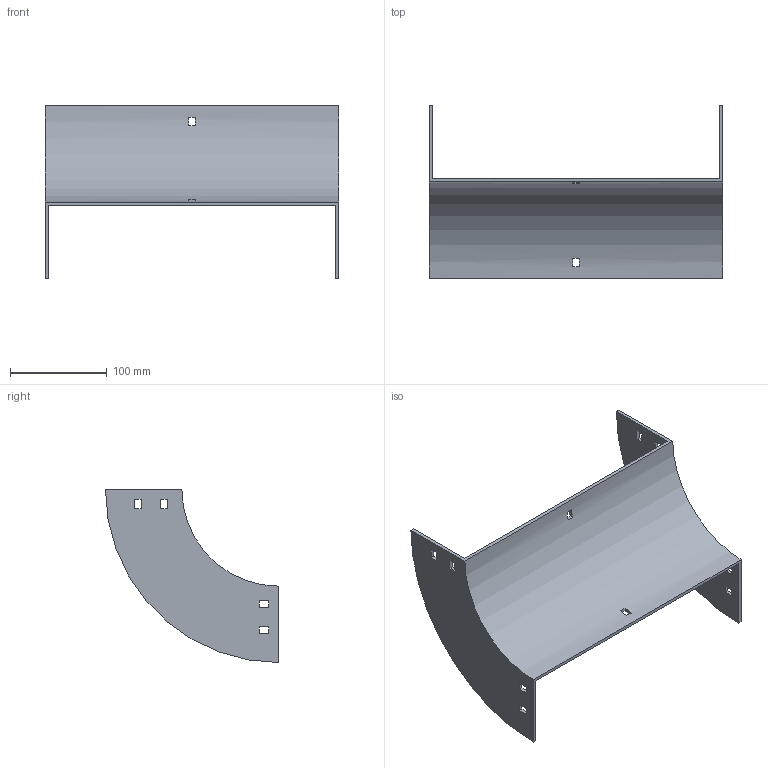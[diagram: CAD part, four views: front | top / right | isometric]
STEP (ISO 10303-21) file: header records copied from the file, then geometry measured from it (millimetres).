
FILE_DESCRIPTION (( 'STEP AP214' ), '1' );
FILE_NAME ('33B1C300.step', '2025-02-21T09:32:38', ( '' ), ( '' ), 'SwSTEP 2.0', 'SolidWorks 2023', '' );
FILE_SCHEMA (( 'AUTOMOTIVE_DESIGN' ));
Length unit declared in the file: millimetre
Products named in the file (1): 33B1C300
Bounding box: 304 x 179 x 179 mm (x, y, z)
Volume: 284943.3 mm3; surface area: 169130.8 mm2
Topology: 1 solids, 1 shells, 50 faces, 144 edges, 96 vertices
Faces by surface type: plane 46, cylinder 4
Entity records: 1687 total; most frequent: CARTESIAN_POINT 291, ORIENTED_EDGE 288, DIRECTION 262, EDGE_CURVE 144, VECTOR 128, LINE 128, VERTEX_POINT 96, EDGE_LOOP 70
